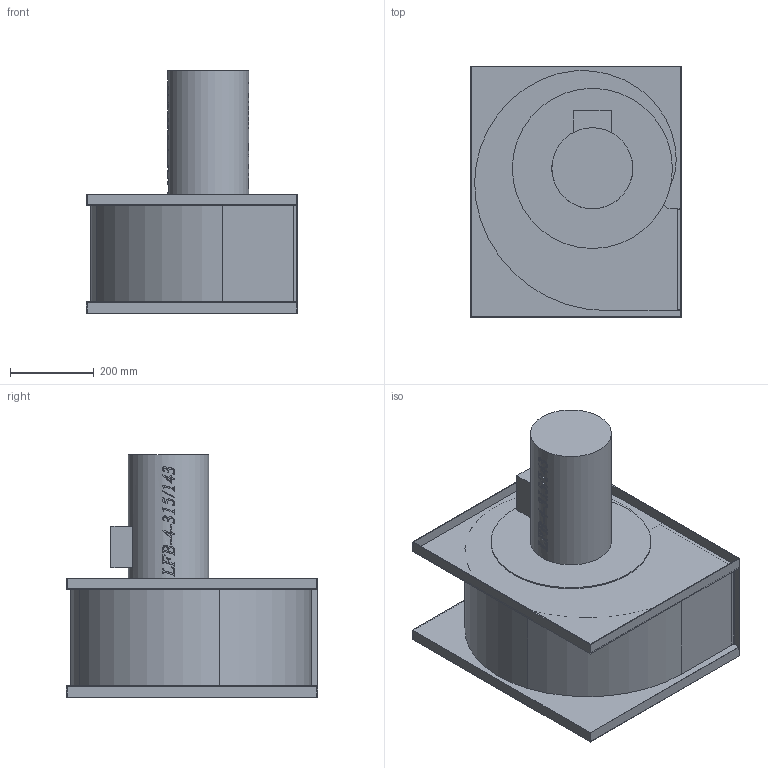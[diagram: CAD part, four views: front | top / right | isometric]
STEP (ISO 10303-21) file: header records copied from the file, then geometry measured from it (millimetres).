
FILE_DESCRIPTION(/* description */ (''),/* implementation_level */ '2;1');
FILE_NAME(/* name */ 'E:\Mariusz\Modele uproszczone\LFB\LFB_4_315_143 435011070\LFB_4_315_143 435011070\LFB_4_315_143 435011070.stp',/* time_stamp */ '2018-07-09T09:48:01+02:00',/* author */ ('M.Janczarek'),/* organization */ (''),/* preprocessor_version */ 'ST-DEVELOPER v16.5',/* originating_system */ 'Autodesk Inventor 2017',/* authorisation */ '');
FILE_SCHEMA (('AUTOMOTIVE_DESIGN { 1 0 10303 214 3 1 1 }'));
Length unit declared in the file: millimetre
Products named in the file (1): LFB_4_315_143 435011070
Bounding box: 504 x 600 x 578.2 mm (x, y, z)
Volume: 60216742.2 mm3; surface area: 1849376.4 mm2
Topology: 1 solids, 1 shells, 572 faces, 1598 edges, 1066 vertices
Faces by surface type: bspline 392, plane 117, cylinder 61, torus 2
Full cylindrical faces by diameter (mm): 7.1 x8, 193 x2, 381.891 x1, 382 x1
Entity records: 24771 total; most frequent: CARTESIAN_POINT 12723, ORIENTED_EDGE 3052, EDGE_CURVE 1526, DIRECTION 1371, VERTEX_POINT 1027, LINE 683, VECTOR 683, B_SPLINE_CURVE_WITH_KNOTS 672
